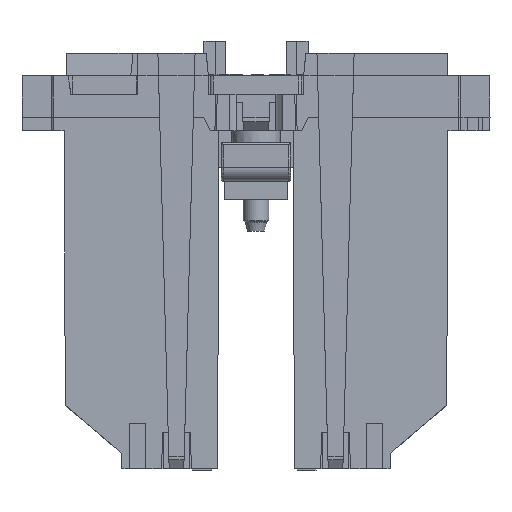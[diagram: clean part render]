
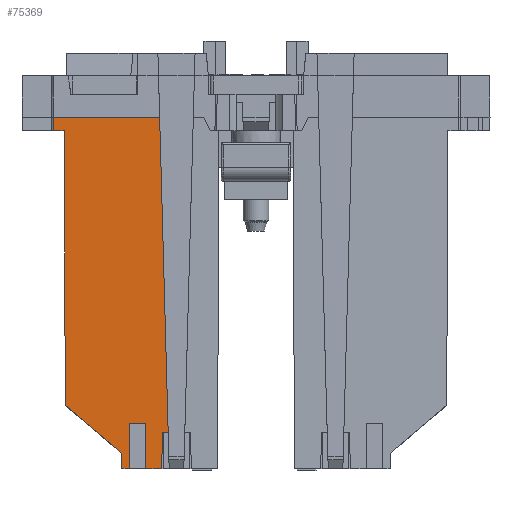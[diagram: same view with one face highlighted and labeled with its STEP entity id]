
A CAD part, front view. The second image highlights one B-rep face of the part: STEP entity #75369.
In plain terms, the highlighted planar face has unit normal (0, -1, -0.004).
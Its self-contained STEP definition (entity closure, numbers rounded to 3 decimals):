
#712 = CARTESIAN_POINT ( 'NONE',  ( -12.104, -9.804, -38.008 ) ) ;
#1161 = CARTESIAN_POINT ( 'NONE',  ( 0., -9.782, -43. ) ) ;
#2686 = DIRECTION ( 'NONE',  ( 1., 0., 0. ) ) ;
#2979 = LINE ( 'NONE', #25685, #115100 ) ;
#5183 = VECTOR ( 'NONE', #109348, 1000. ) ;
#7478 = VECTOR ( 'NONE', #53396, 1000. ) ;
#8843 = EDGE_CURVE ( 'NONE', #98923, #106542, #88370, .T. ) ;
#9179 = CARTESIAN_POINT ( 'NONE',  ( -10.096, -9.878, -20.989 ) ) ;
#10747 = EDGE_CURVE ( 'NONE', #97922, #57621, #62884, .T. ) ;
#12010 = CARTESIAN_POINT ( 'NONE',  ( -14.7, -9.782, -43. ) ) ;
#12043 = VERTEX_POINT ( 'NONE', #51081 ) ;
#12727 = VECTOR ( 'NONE', #112475, 1000. ) ;
#13775 = CARTESIAN_POINT ( 'NONE',  ( -22.143, -9.943, -6. ) ) ;
#15765 = VECTOR ( 'NONE', #46124, 1000. ) ;
#17784 = CARTESIAN_POINT ( 'NONE',  ( -13.825, -9.782, -43. ) ) ;
#19934 = ORIENTED_EDGE ( 'NONE', *, *, #8843, .F. ) ;
#24700 = LINE ( 'NONE', #67652, #82532 ) ;
#25685 = CARTESIAN_POINT ( 'NONE',  ( -21., -9.95, -4.592 ) ) ;
#25791 = VERTEX_POINT ( 'NONE', #37752 ) ;
#25921 = CARTESIAN_POINT ( 'NONE',  ( -13.796, -9.804, -38. ) ) ;
#26669 = EDGE_LOOP ( 'NONE', ( #49538, #47233, #121930, #36300, #65557, #86345, #19934, #41872, #63467, #45511, #115272, #93079, #55985, #81534, #82679 ) ) ;
#27117 = LINE ( 'NONE', #133639, #139260 ) ;
#27406 = DIRECTION ( 'NONE',  ( 1., 0., 0. ) ) ;
#28006 = CARTESIAN_POINT ( 'NONE',  ( -14.715, -9.79, -41.257 ) ) ;
#29625 = LINE ( 'NONE', #81550, #138340 ) ;
#30898 = DIRECTION ( 'NONE',  ( 0.007, 0.004, -1. ) ) ;
#32729 = EDGE_CURVE ( 'NONE', #112472, #79969, #97543, .T. ) ;
#34544 = LINE ( 'NONE', #712, #121265 ) ;
#35625 = AXIS2_PLACEMENT_3D ( 'NONE', #85396, #118138, #53100 ) ;
#36264 = DIRECTION ( 'NONE',  ( 0.006, -0.004, 1. ) ) ;
#36300 = ORIENTED_EDGE ( 'NONE', *, *, #79627, .F. ) ;
#37752 = CARTESIAN_POINT ( 'NONE',  ( -20.993, -9.943, -6. ) ) ;
#41111 = CARTESIAN_POINT ( 'NONE',  ( -14.7, -9.95, -4.5 ) ) ;
#41633 = LINE ( 'NONE', #133873, #12727 ) ;
#41872 = ORIENTED_EDGE ( 'NONE', *, *, #44171, .T. ) ;
#42157 = PLANE ( 'NONE',  #35625 ) ;
#44171 = EDGE_CURVE ( 'NONE', #98923, #62632, #27117, .T. ) ;
#45511 = ORIENTED_EDGE ( 'NONE', *, *, #82940, .F. ) ;
#46124 = DIRECTION ( 'NONE',  ( -0.762, -0.003, 0.648 ) ) ;
#47233 = ORIENTED_EDGE ( 'NONE', *, *, #112891, .T. ) ;
#49538 = ORIENTED_EDGE ( 'NONE', *, *, #86972, .F. ) ;
#51081 = CARTESIAN_POINT ( 'NONE',  ( -9.608, -9.799, -39. ) ) ;
#53100 = DIRECTION ( 'NONE',  ( 0., 0.004, -1. ) ) ;
#53396 = DIRECTION ( 'NONE',  ( -1., 0., 0. ) ) ;
#53622 = VECTOR ( 'NONE', #110796, 1000. ) ;
#54264 = FACE_OUTER_BOUND ( 'NONE', #26669, .T. ) ;
#54802 = VERTEX_POINT ( 'NONE', #139323 ) ;
#55985 = ORIENTED_EDGE ( 'NONE', *, *, #80588, .T. ) ;
#57508 = VECTOR ( 'NONE', #30898, 1000. ) ;
#57621 = VERTEX_POINT ( 'NONE', #87315 ) ;
#62246 = VERTEX_POINT ( 'NONE', #28006 ) ;
#62632 = VERTEX_POINT ( 'NONE', #25921 ) ;
#62884 = LINE ( 'NONE', #85553, #117252 ) ;
#63467 = ORIENTED_EDGE ( 'NONE', *, *, #93767, .T. ) ;
#64331 = CARTESIAN_POINT ( 'NONE',  ( -10.34, -9.782, -43. ) ) ;
#65557 = ORIENTED_EDGE ( 'NONE', *, *, #72285, .F. ) ;
#66087 = EDGE_CURVE ( 'NONE', #108014, #25791, #29625, .T. ) ;
#66419 = CARTESIAN_POINT ( 'NONE',  ( -9.693, -9.813, -35.864 ) ) ;
#67652 = CARTESIAN_POINT ( 'NONE',  ( 0., -9.799, -39. ) ) ;
#67929 = CARTESIAN_POINT ( 'NONE',  ( -24.311, -9.825, -33.101 ) ) ;
#68631 = VECTOR ( 'NONE', #84667, 1000. ) ;
#72285 = EDGE_CURVE ( 'NONE', #62246, #54802, #124553, .T. ) ;
#75369 = ADVANCED_FACE ( 'NONE', ( #54264 ), #42157, .T. ) ;
#78244 = VERTEX_POINT ( 'NONE', #84633 ) ;
#79627 = EDGE_CURVE ( 'NONE', #54802, #25791, #2979, .T. ) ;
#79969 = VERTEX_POINT ( 'NONE', #119177 ) ;
#80114 = EDGE_CURVE ( 'NONE', #12043, #112472, #125200, .T. ) ;
#80588 = EDGE_CURVE ( 'NONE', #57621, #12043, #24700, .T. ) ;
#81534 = ORIENTED_EDGE ( 'NONE', *, *, #80114, .T. ) ;
#81550 = CARTESIAN_POINT ( 'NONE',  ( 0., -9.943, -6. ) ) ;
#82532 = VECTOR ( 'NONE', #2686, 1000. ) ;
#82679 = ORIENTED_EDGE ( 'NONE', *, *, #32729, .T. ) ;
#82940 = EDGE_CURVE ( 'NONE', #87995, #78244, #34544, .T. ) ;
#83924 = EDGE_CURVE ( 'NONE', #106542, #62246, #140188, .T. ) ;
#84633 = CARTESIAN_POINT ( 'NONE',  ( -12.104, -9.804, -38. ) ) ;
#84667 = DIRECTION ( 'NONE',  ( -0.027, -0.004, 1. ) ) ;
#85396 = CARTESIAN_POINT ( 'NONE',  ( 0., -9.95, -4.5 ) ) ;
#85553 = CARTESIAN_POINT ( 'NONE',  ( -8.985, -9.951, -4.186 ) ) ;
#86345 = ORIENTED_EDGE ( 'NONE', *, *, #83924, .F. ) ;
#86433 = LINE ( 'NONE', #117311, #57508 ) ;
#86972 = EDGE_CURVE ( 'NONE', #123730, #79969, #124186, .T. ) ;
#87315 = CARTESIAN_POINT ( 'NONE',  ( -10.2, -9.799, -39. ) ) ;
#87542 = DIRECTION ( 'NONE',  ( -0.006, -0.004, 1. ) ) ;
#87995 = VERTEX_POINT ( 'NONE', #98390 ) ;
#88370 = LINE ( 'NONE', #1161, #5183 ) ;
#93079 = ORIENTED_EDGE ( 'NONE', *, *, #10747, .T. ) ;
#93767 = EDGE_CURVE ( 'NONE', #62632, #78244, #41633, .T. ) ;
#94583 = EDGE_CURVE ( 'NONE', #97922, #87995, #100908, .T. ) ;
#95112 = CARTESIAN_POINT ( 'NONE',  ( -9.693, -9.813, -35.864 ) ) ;
#95312 = VECTOR ( 'NONE', #95724, 1000. ) ;
#95724 = DIRECTION ( 'NONE',  ( 1., 0., 0. ) ) ;
#97543 = LINE ( 'NONE', #95112, #68631 ) ;
#97922 = VERTEX_POINT ( 'NONE', #64331 ) ;
#98390 = CARTESIAN_POINT ( 'NONE',  ( -12.075, -9.782, -43. ) ) ;
#98923 = VERTEX_POINT ( 'NONE', #17784 ) ;
#100908 = LINE ( 'NONE', #129846, #7478 ) ;
#106542 = VERTEX_POINT ( 'NONE', #12010 ) ;
#108014 = VERTEX_POINT ( 'NONE', #13775 ) ;
#109348 = DIRECTION ( 'NONE',  ( -1., 0., 0. ) ) ;
#110796 = DIRECTION ( 'NONE',  ( -0.009, -0.004, 1. ) ) ;
#112472 = VERTEX_POINT ( 'NONE', #9179 ) ;
#112475 = DIRECTION ( 'NONE',  ( 1., 0., 0. ) ) ;
#112598 = DIRECTION ( 'NONE',  ( -0.004, -0.004, 1. ) ) ;
#112891 = EDGE_CURVE ( 'NONE', #123730, #108014, #86433, .T. ) ;
#113674 = CARTESIAN_POINT ( 'NONE',  ( -22.153, -9.95, -4.5 ) ) ;
#115100 = VECTOR ( 'NONE', #112598, 1000. ) ;
#115272 = ORIENTED_EDGE ( 'NONE', *, *, #94583, .F. ) ;
#117252 = VECTOR ( 'NONE', #139610, 1000. ) ;
#117311 = CARTESIAN_POINT ( 'NONE',  ( -22.143, -9.943, -5.998 ) ) ;
#118138 = DIRECTION ( 'NONE',  ( 0., -1., -0.004 ) ) ;
#119177 = CARTESIAN_POINT ( 'NONE',  ( -10.542, -9.95, -4.5 ) ) ;
#121265 = VECTOR ( 'NONE', #87542, 1000. ) ;
#121283 = CARTESIAN_POINT ( 'NONE',  ( -15.035, -9.949, -4.631 ) ) ;
#121788 = VECTOR ( 'NONE', #131993, 1000. ) ;
#121930 = ORIENTED_EDGE ( 'NONE', *, *, #66087, .T. ) ;
#123730 = VERTEX_POINT ( 'NONE', #113674 ) ;
#124186 = LINE ( 'NONE', #41111, #95312 ) ;
#124553 = LINE ( 'NONE', #67929, #15765 ) ;
#125200 = LINE ( 'NONE', #66419, #121788 ) ;
#129846 = CARTESIAN_POINT ( 'NONE',  ( 0., -9.782, -43. ) ) ;
#131993 = DIRECTION ( 'NONE',  ( -0.027, -0.004, 1. ) ) ;
#133639 = CARTESIAN_POINT ( 'NONE',  ( -13.596, -9.95, -4.419 ) ) ;
#133873 = CARTESIAN_POINT ( 'NONE',  ( 0., -9.804, -38. ) ) ;
#138340 = VECTOR ( 'NONE', #27406, 1000. ) ;
#139260 = VECTOR ( 'NONE', #36264, 1000. ) ;
#139323 = CARTESIAN_POINT ( 'NONE',  ( -20.862, -9.812, -36.032 ) ) ;
#139610 = DIRECTION ( 'NONE',  ( 0.035, -0.004, 0.999 ) ) ;
#140188 = LINE ( 'NONE', #121283, #53622 ) ;
